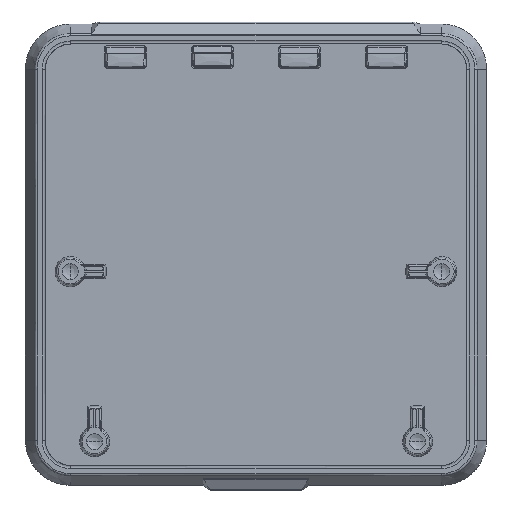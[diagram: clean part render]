
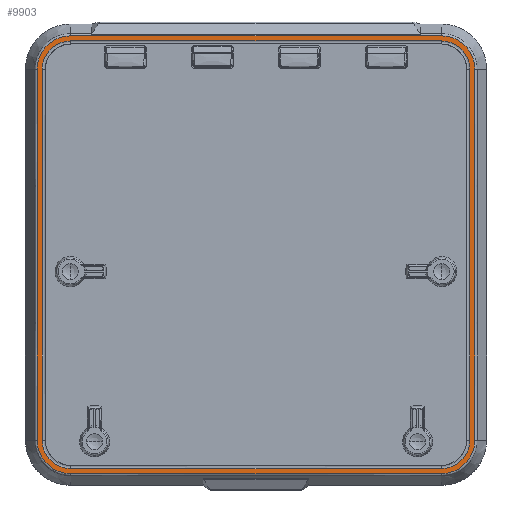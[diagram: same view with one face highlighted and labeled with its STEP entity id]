
A CAD part, front view. The second image highlights one B-rep face of the part: STEP entity #9903.
In plain terms, the highlighted planar face has unit normal (0, -1, 0) as drawn and (0, 1, 0) by its records, which use the part's own axes.
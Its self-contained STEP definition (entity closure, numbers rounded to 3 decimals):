
#4821=CARTESIAN_POINT('',(75.,67.,-747.481));
#4826=CARTESIAN_POINT('',(75.,67.,-692.));
#4827=DIRECTION('',(0.,1.,0.));
#4828=DIRECTION('',(0.,0.,-1.));
#4829=AXIS2_PLACEMENT_3D('',#4826,#4827,#4828);
#4831=CARTESIAN_POINT('',(692.,67.,-747.481));
#4836=DIRECTION('',(-1.,0.,0.));
#4837=VECTOR('',#4836,617.);
#4838=CARTESIAN_POINT('',(692.,67.,-747.481));
#4839=LINE('',#4838,#4837);
#4840=CARTESIAN_POINT('',(747.481,67.,-692.));
#4845=CARTESIAN_POINT('',(692.,67.,-692.));
#4846=DIRECTION('',(0.,1.,0.));
#4847=DIRECTION('',(1.,0.,0.));
#4848=AXIS2_PLACEMENT_3D('',#4845,#4846,#4847);
#4850=CARTESIAN_POINT('',(747.481,67.,-75.));
#4855=DIRECTION('',(0.,0.,-1.));
#4856=VECTOR('',#4855,617.);
#4857=CARTESIAN_POINT('',(747.481,67.,-75.));
#4858=LINE('',#4857,#4856);
#4859=CARTESIAN_POINT('',(692.,67.,-19.519));
#4864=CARTESIAN_POINT('',(692.,67.,-75.));
#4865=DIRECTION('',(0.,1.,0.));
#4866=DIRECTION('',(0.,0.,1.));
#4867=AXIS2_PLACEMENT_3D('',#4864,#4865,#4866);
#4869=DIRECTION('',(1.,0.,0.));
#4870=VECTOR('',#4869,617.);
#4871=CARTESIAN_POINT('',(75.,67.,-19.519));
#4872=LINE('',#4871,#4870);
#4873=CARTESIAN_POINT('',(19.519,67.,-75.));
#4878=CARTESIAN_POINT('',(75.,67.,-75.));
#4879=DIRECTION('',(0.,1.,0.));
#4880=DIRECTION('',(-1.,0.,0.));
#4881=AXIS2_PLACEMENT_3D('',#4878,#4879,#4880);
#4883=CARTESIAN_POINT('',(75.,67.,-19.519));
#4888=CARTESIAN_POINT('',(19.519,67.,-692.));
#4893=DIRECTION('',(0.,0.,1.));
#4894=VECTOR('',#4893,617.);
#4895=CARTESIAN_POINT('',(19.519,67.,-692.));
#4896=LINE('',#4895,#4894);
#4897=DIRECTION('',(1.,0.,0.));
#4898=VECTOR('',#4897,617.);
#4899=CARTESIAN_POINT('',(75.,67.,-27.963));
#4900=LINE('',#4899,#4898);
#4901=CARTESIAN_POINT('',(692.,67.,-75.));
#4902=DIRECTION('',(0.,1.,0.));
#4903=DIRECTION('',(0.,0.,1.));
#4904=AXIS2_PLACEMENT_3D('',#4901,#4902,#4903);
#4906=DIRECTION('',(0.,0.,-1.));
#4907=VECTOR('',#4906,617.);
#4908=CARTESIAN_POINT('',(739.037,67.,-75.));
#4909=LINE('',#4908,#4907);
#4910=CARTESIAN_POINT('',(692.,67.,-692.));
#4911=DIRECTION('',(0.,1.,0.));
#4912=DIRECTION('',(1.,0.,0.));
#4913=AXIS2_PLACEMENT_3D('',#4910,#4911,#4912);
#4915=DIRECTION('',(-1.,0.,0.));
#4916=VECTOR('',#4915,617.);
#4917=CARTESIAN_POINT('',(692.,67.,-739.037));
#4918=LINE('',#4917,#4916);
#4919=CARTESIAN_POINT('',(75.,67.,-692.));
#4920=DIRECTION('',(0.,1.,0.));
#4921=DIRECTION('',(0.,0.,-1.));
#4922=AXIS2_PLACEMENT_3D('',#4919,#4920,#4921);
#4924=DIRECTION('',(0.,0.,1.));
#4925=VECTOR('',#4924,617.);
#4926=CARTESIAN_POINT('',(27.963,67.,-692.));
#4927=LINE('',#4926,#4925);
#4928=CARTESIAN_POINT('',(75.,67.,-75.));
#4929=DIRECTION('',(0.,1.,0.));
#4930=DIRECTION('',(-1.,0.,0.));
#4931=AXIS2_PLACEMENT_3D('',#4928,#4929,#4930);
#4940=CARTESIAN_POINT('',(27.963,67.,-75.));
#4950=CARTESIAN_POINT('',(75.,67.,-27.963));
#4955=CARTESIAN_POINT('',(27.963,67.,-692.));
#4964=CARTESIAN_POINT('',(75.,67.,-739.037));
#4974=CARTESIAN_POINT('',(692.,67.,-739.037));
#4983=CARTESIAN_POINT('',(739.037,67.,-692.));
#4993=CARTESIAN_POINT('',(739.037,67.,-75.));
#5002=CARTESIAN_POINT('',(692.,67.,-27.963));
#5249=VERTEX_POINT('',#4950);
#5250=VERTEX_POINT('',#4883);
#5292=VERTEX_POINT('',#5002);
#5293=VERTEX_POINT('',#4859);
#5339=VERTEX_POINT('',#4993);
#5340=VERTEX_POINT('',#4850);
#5383=VERTEX_POINT('',#4983);
#5384=VERTEX_POINT('',#4840);
#5428=VERTEX_POINT('',#4974);
#5429=VERTEX_POINT('',#4831);
#5472=VERTEX_POINT('',#4964);
#5473=VERTEX_POINT('',#4821);
#5517=VERTEX_POINT('',#4955);
#5518=VERTEX_POINT('',#4888);
#5561=VERTEX_POINT('',#4940);
#5562=VERTEX_POINT('',#4873);
#9870=CARTESIAN_POINT('',(383.5,67.,-23.741));
#9871=DIRECTION('',(0.,1.,0.));
#9872=DIRECTION('',(0.,0.,-1.));
#9873=AXIS2_PLACEMENT_3D('',#9870,#9871,#9872);
#9874=PLANE('',#9873);
#9875=ORIENTED_EDGE('',*,*,#9838,.F.);
#9876=ORIENTED_EDGE('',*,*,#9863,.F.);
#9877=ORIENTED_EDGE('',*,*,#9597,.F.);
#9878=ORIENTED_EDGE('',*,*,#9624,.F.);
#9879=ORIENTED_EDGE('',*,*,#9678,.F.);
#9880=ORIENTED_EDGE('',*,*,#9704,.F.);
#9881=ORIENTED_EDGE('',*,*,#9758,.F.);
#9882=ORIENTED_EDGE('',*,*,#9784,.F.);
#9883=EDGE_LOOP('',(#9875,#9876,#9877,#9878,#9879,#9880,#9881,#9882));
#9884=FACE_OUTER_BOUND('',#9883,.F.);
#9886=ORIENTED_EDGE('',*,*,#9885,.T.);
#9888=ORIENTED_EDGE('',*,*,#9887,.T.);
#9890=ORIENTED_EDGE('',*,*,#9889,.T.);
#9892=ORIENTED_EDGE('',*,*,#9891,.T.);
#9894=ORIENTED_EDGE('',*,*,#9893,.T.);
#9896=ORIENTED_EDGE('',*,*,#9895,.T.);
#9898=ORIENTED_EDGE('',*,*,#9897,.T.);
#9900=ORIENTED_EDGE('',*,*,#9899,.T.);
#9901=EDGE_LOOP('',(#9886,#9888,#9890,#9892,#9894,#9896,#9898,#9900));
#9902=FACE_BOUND('',#9901,.F.);
#9903=ADVANCED_FACE('',(#9884,#9902),#9874,.T.);
#4830=CIRCLE('',#4829,55.481);
#4849=CIRCLE('',#4848,55.481);
#4868=CIRCLE('',#4867,55.481);
#4882=CIRCLE('',#4881,55.481);
#4905=CIRCLE('',#4904,47.037);
#4914=CIRCLE('',#4913,47.037);
#4923=CIRCLE('',#4922,47.037);
#4932=CIRCLE('',#4931,47.037);
#9597=EDGE_CURVE('',#5473,#5518,#4830,.T.);
#9624=EDGE_CURVE('',#5429,#5473,#4839,.T.);
#9678=EDGE_CURVE('',#5384,#5429,#4849,.T.);
#9704=EDGE_CURVE('',#5340,#5384,#4858,.T.);
#9758=EDGE_CURVE('',#5293,#5340,#4868,.T.);
#9784=EDGE_CURVE('',#5250,#5293,#4872,.T.);
#9838=EDGE_CURVE('',#5562,#5250,#4882,.T.);
#9863=EDGE_CURVE('',#5518,#5562,#4896,.T.);
#9885=EDGE_CURVE('',#5249,#5292,#4900,.T.);
#9887=EDGE_CURVE('',#5292,#5339,#4905,.T.);
#9889=EDGE_CURVE('',#5339,#5383,#4909,.T.);
#9891=EDGE_CURVE('',#5383,#5428,#4914,.T.);
#9893=EDGE_CURVE('',#5428,#5472,#4918,.T.);
#9895=EDGE_CURVE('',#5472,#5517,#4923,.T.);
#9897=EDGE_CURVE('',#5517,#5561,#4927,.T.);
#9899=EDGE_CURVE('',#5561,#5249,#4932,.T.);
